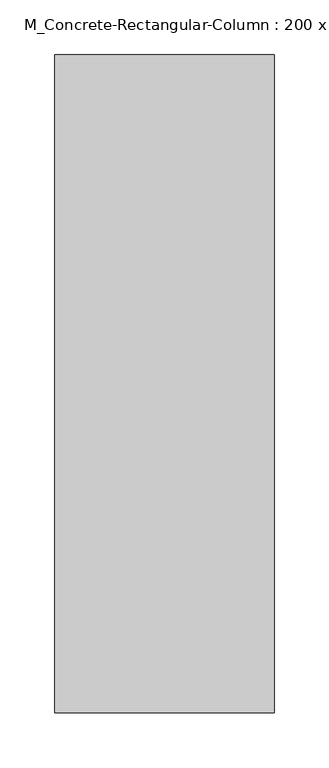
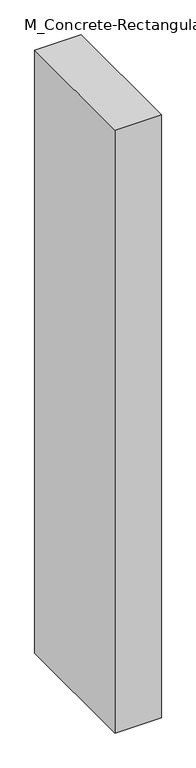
"""IFC4 building model written with IfcOpenShell, lengths in millimetres: column geometry, M_Concrete-Rectangular-Column : 200 x 600mm."""

from ifc_helpers import new_model, si_unit, frame, origin, place, context, project, spatial, polyline, outline, extrude, source, transform, mapped, element, save


def m_concrete_rectangular_column_200_x_600mm_2f6cfae0(model_context):
    return source(origin(), model_context, "Body", "SweptSolid", [
        extrude(outline(polyline([(100.0, 300.0), (100.0, -300.0), (-100.0, -300.0), (-100.0, 300.0), (100.0, 300.0)])), frame((0.0, 0.0, 3000.0), z_axis=(0.0, 0.0, 1.0), x_axis=(1.0, 0.0, 0.0)), (0.0, 0.0, 1.0), 2750.0),
    ])


if __name__ == "__main__":
    model = new_model("IFC4")
    model_context = context("Model", 3, world=origin())
    ifc_project = project(units=[si_unit("LENGTHUNIT", "METRE", prefix="MILLI")], contexts=[model_context])
    site = spatial("IfcSite", under=ifc_project)
    building = spatial("IfcBuilding", under=site)
    placement = place(None, origin())
    m_concrete_rectangular_column_200_x_600mm_shape = m_concrete_rectangular_column_200_x_600mm_2f6cfae0(model_context)
    element("IfcColumn", 1, ObjectType="M_Concrete-Rectangular-Column : 200 x 600mm", at=placement, inside=building, context=model_context, shape_type="MappedRepresentation", body=[
        mapped(m_concrete_rectangular_column_200_x_600mm_shape, transform((0.0, 0.0, 0.0), x_axis=(1.0, 0.0, 0.0), y_axis=(0.0, 1.0, 0.0), z_axis=(0.0, 0.0, 1.0))),
    ])
    save(model, "model.ifc")
